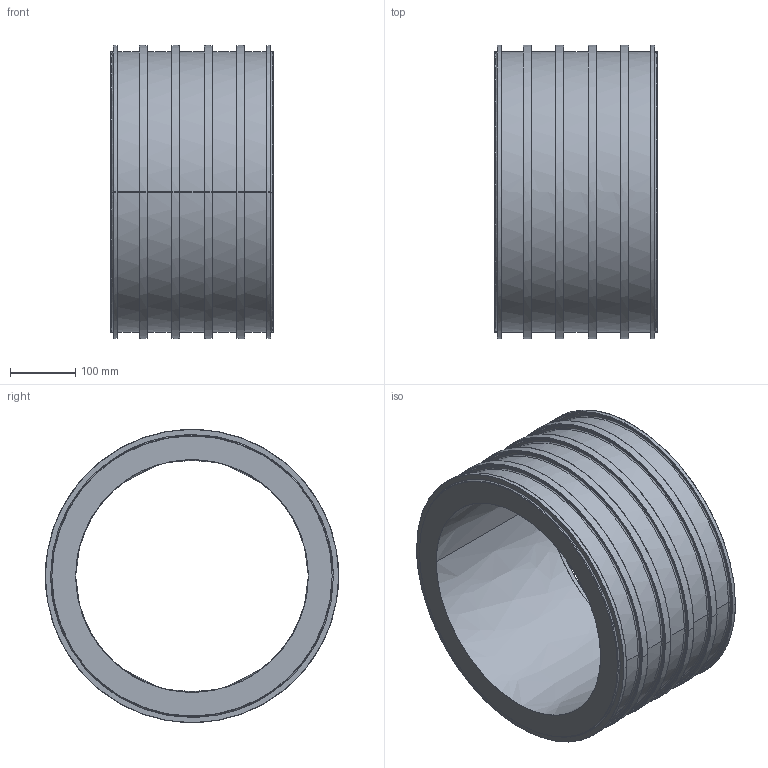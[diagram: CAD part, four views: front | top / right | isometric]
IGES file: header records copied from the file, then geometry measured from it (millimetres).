
Start section:  PTC IGES file: asfl_d315.igs
Global section: file name: asfl_d315.igs; native system: Pro/ENGINEER by Parametric Technology Corporation; preprocessor: 2011490; author: mtunjic; organization: Unknown; date: 20130730.084030; units: millimetre
Bounding box: 250 x 450 x 450 mm (x, y, z)
Surface area: 925769.4 mm2 (no closed solid volume)
Topology: 0 solids, 0 shells, 138 faces, 552 edges, 552 vertices
Faces by surface type: bspline 138
